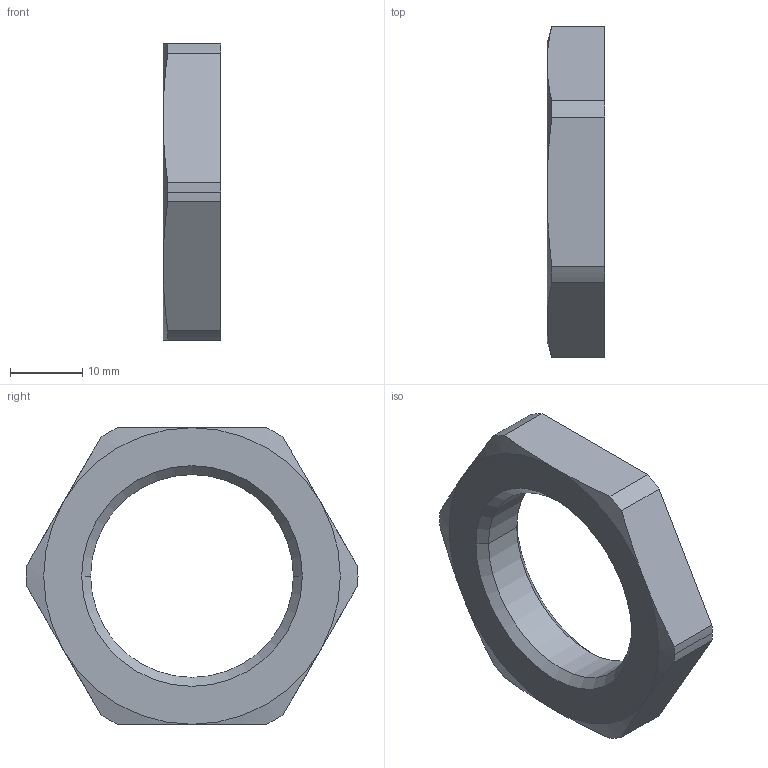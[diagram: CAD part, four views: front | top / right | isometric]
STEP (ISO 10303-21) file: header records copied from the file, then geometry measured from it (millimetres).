
FILE_DESCRIPTION((''),'2;1');
FILE_NAME('108712.0.stp','2007-11-06T08:52:23',(''),(''),'AutoCAD STEP 2000i','AutoCAD 2000i',', , ');
FILE_SCHEMA(('CONFIG_CONTROL_DESIGN'));
Length unit declared in the file: millimetre
Products named in the file (2): 108712.0; CHIAVE SMUSSX1036#0
Assembly tree (1 placements, depth 2):
  108712.0
    CHIAVE SMUSSX1036#0
Bounding box: 8 x 45.9 x 41 mm (x, y, z)
Volume: 6493.6 mm3; surface area: 3330.4 mm2
Topology: 1 solids, 1 shells, 28 faces, 68 edges, 42 vertices
Faces by surface type: cylinder 10, cone 10, plane 8
Entity records: 923 total; most frequent: CARTESIAN_POINT 164, DIRECTION 146, ORIENTED_EDGE 136, EDGE_CURVE 68, AXIS2_PLACEMENT_3D 60, VERTEX_POINT 42, CIRCLE 30, EDGE_LOOP 30
